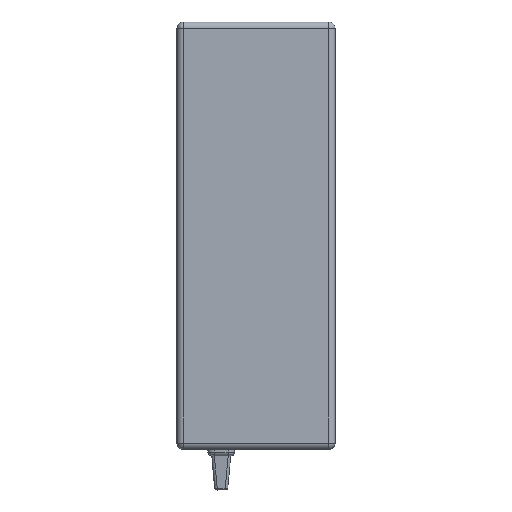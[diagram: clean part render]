
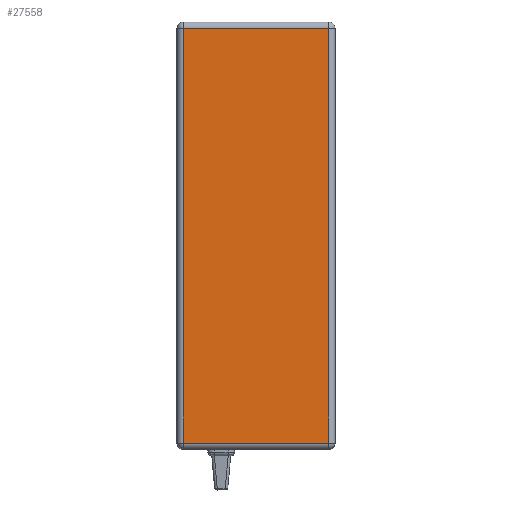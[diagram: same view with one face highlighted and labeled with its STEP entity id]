
A CAD part, top view. The second image highlights one B-rep face of the part: STEP entity #27558.
In plain terms, the highlighted planar face has unit normal (0, 0, 1).
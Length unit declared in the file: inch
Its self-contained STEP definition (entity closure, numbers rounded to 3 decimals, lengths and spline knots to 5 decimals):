
#3836 = CARTESIAN_POINT ( 'NONE',  ( -0.45276, -1.24016, 0.45276 ) ) ;
#3843 = DIRECTION ( 'NONE',  ( 0., -1., 0. ) ) ;
#3844 = VECTOR ( 'NONE', #3843, 39.37008 ) ;
#3845 = CARTESIAN_POINT ( 'NONE',  ( -0.45276, 0., 0.45276 ) ) ;
#3846 = LINE ( 'NONE', #3845, #3844 ) ;
#4091 = CARTESIAN_POINT ( 'NONE',  ( 0.45276, -1.24016, 0.45276 ) ) ;
#4152 = DIRECTION ( 'NONE',  ( 1., 0., 0. ) ) ;
#4153 = DIRECTION ( 'NONE',  ( 0., 0., 1. ) ) ;
#4154 = CARTESIAN_POINT ( 'NONE',  ( 0., 0., 0.45276 ) ) ;
#4155 = AXIS2_PLACEMENT_3D ( 'NONE', #4154, #4153, #4152 ) ;
#4156 = PLANE ( 'NONE',  #4155 ) ;
#4157 = FACE_OUTER_BOUND ( 'NONE', #27559, .T. ) ;
#4158 = DIRECTION ( 'NONE',  ( 1., 0., 0. ) ) ;
#4159 = VECTOR ( 'NONE', #4158, 39.37008 ) ;
#4160 = CARTESIAN_POINT ( 'NONE',  ( 0., -1.24016, 0.45276 ) ) ;
#4161 = LINE ( 'NONE', #4160, #4159 ) ;
#4178 = CARTESIAN_POINT ( 'NONE',  ( 0., 1.34252, 0.45276 ) ) ;
#4183 = LINE ( 'NONE', #4178, #4302 ) ;
#4186 = DIRECTION ( 'NONE',  ( 0., 1., 0. ) ) ;
#4187 = VECTOR ( 'NONE', #4186, 39.37008 ) ;
#4188 = CARTESIAN_POINT ( 'NONE',  ( 0.45276, 0., 0.45276 ) ) ;
#4189 = LINE ( 'NONE', #4188, #4187 ) ;
#4205 = CARTESIAN_POINT ( 'NONE',  ( 0.45276, 1.34252, 0.45276 ) ) ;
#4277 = CARTESIAN_POINT ( 'NONE',  ( -0.45276, 1.34252, 0.45276 ) ) ;
#4301 = DIRECTION ( 'NONE',  ( -1., 0., 0. ) ) ;
#4302 = VECTOR ( 'NONE', #4301, 39.37008 ) ;
#27349 = EDGE_CURVE ( 'NONE', #27590, #27356, #3846, .T. ) ;
#27356 = VERTEX_POINT ( 'NONE', #3836 ) ;
#27375 = VERTEX_POINT ( 'NONE', #4091 ) ;
#27557 = EDGE_CURVE ( 'NONE', #27356, #27375, #4161, .T. ) ;
#27558 = ADVANCED_FACE ( 'NONE', ( #4157 ), #4156, .T. ) ;
#27559 = EDGE_LOOP ( 'NONE', ( #27560, #27561, #27562, #27563 ) ) ;
#27560 = ORIENTED_EDGE ( 'NONE', *, *, #27349, .T. ) ;
#27561 = ORIENTED_EDGE ( 'NONE', *, *, #27557, .T. ) ;
#27562 = ORIENTED_EDGE ( 'NONE', *, *, #27574, .T. ) ;
#27563 = ORIENTED_EDGE ( 'NONE', *, *, #27579, .T. ) ;
#27574 = EDGE_CURVE ( 'NONE', #27375, #27596, #4189, .T. ) ;
#27579 = EDGE_CURVE ( 'NONE', #27596, #27590, #4183, .T. ) ;
#27590 = VERTEX_POINT ( 'NONE', #4277 ) ;
#27596 = VERTEX_POINT ( 'NONE', #4205 ) ;
